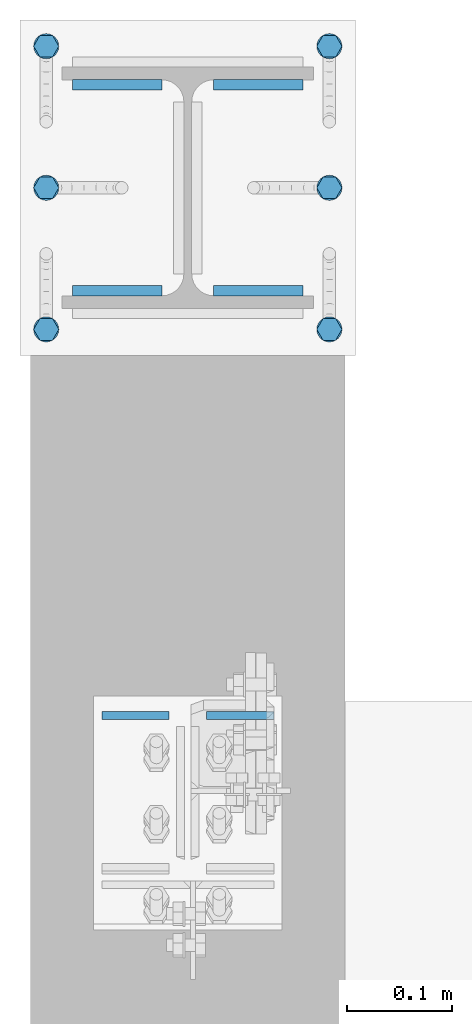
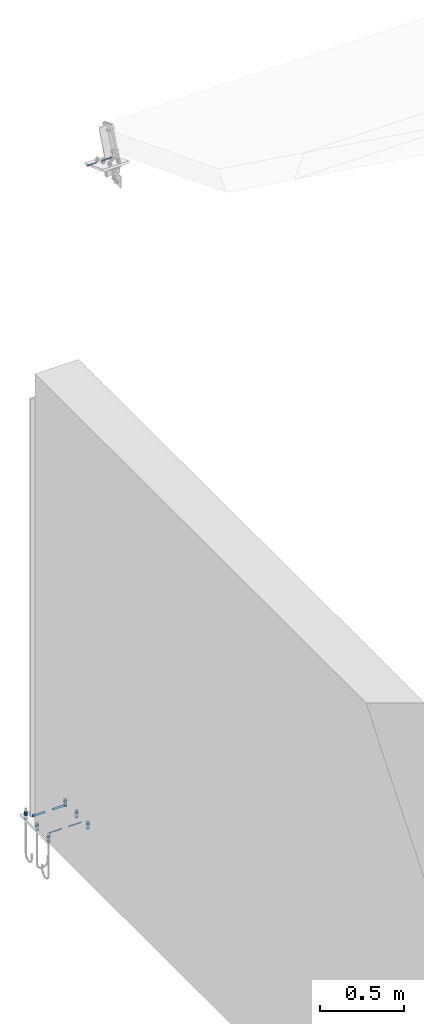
# One storey, part 42 of 72: 30 mechanical fasteners, 12 fasteners.
"""IFC4 building model written with IfcOpenShell, lengths in metres."""

import ifcopenshell
import ifcopenshell.guid

model = None  # the IFC model being written
_history = None  # IfcOwnerHistory: only IFC2X3 demands one
_inside = {}  # id of a spatial element -> (the spatial element, [elements in it])
_under = {}  # id of a project, library or spatial element -> (it, [spatial elements below it])
_declared = {}  # id of a project -> (the project, [libraries it declares])
_typed = {}  # id of a type object -> (the type object, [elements of that type])
_made_of = {}  # id of a material, layer set ... -> (it, [elements and type objects made of it])


def new_model(schema):
    """Start an empty IFC model of exactly this schema.

    Asked for "IFC4X3", IfcOpenShell would pick the latest addendum, in which some entities
    have other attributes; the version numbers below select the first issue.
    IFC2X3 requires an IfcOwnerHistory on every rooted entity: one is made here for all.
    """
    global model, _history
    if schema == "IFC4X3":
        model = ifcopenshell.file(schema_version=(4, 3, 0, 0))
    else:
        model = ifcopenshell.file(schema=schema)
    _inside.clear()
    _under.clear()
    _declared.clear()
    _typed.clear()
    _made_of.clear()
    _history = None
    if model.schema == "IFC2X3":
        org = make("IfcOrganization", Name="unknown")
        user = make(
            "IfcPersonAndOrganization",
            ThePerson=make("IfcPerson", FamilyName="unknown"),
            TheOrganization=org,
        )
        app = make(
            "IfcApplication",
            ApplicationDeveloper=org,
            Version="unknown",
            ApplicationFullName="unknown",
            ApplicationIdentifier="unknown",
        )
        _history = make(
            "IfcOwnerHistory",
            OwningUser=user,
            OwningApplication=app,
            ChangeAction="ADDED",
            CreationDate=0,
        )
    return model


def make(cls, **values):
    """One entity of the class cls with the attributes given. An attribute that is None is left unset."""
    return model.create_entity(
        cls, **{name: value for name, value in values.items() if value is not None}
    )


def rooted(cls, **values):
    """An entity with a GlobalId (a new one), such as an element, a storey or a relation."""
    return make(cls, GlobalId=ifcopenshell.guid.new(), OwnerHistory=_history, **values)


def si_unit(unit_type, name, prefix=None):
    """IfcSIUnit, for example si_unit("LENGTHUNIT", "METRE", prefix="MILLI")."""
    return make("IfcSIUnit", UnitType=unit_type, Prefix=prefix, Name=name)


def assignment(units):
    """IfcUnitAssignment: the units of a project."""
    return None if units is None else make("IfcUnitAssignment", Units=units)


def point(xyz):
    """IfcCartesianPoint."""
    return None if xyz is None else make("IfcCartesianPoint", Coordinates=xyz)


def direction(xyz):
    """IfcDirection."""
    return None if xyz is None else make("IfcDirection", DirectionRatios=xyz)


def frame(location, z_axis=None, x_axis=None):
    """IfcAxis2Placement3D, a coordinate frame: its origin and axes. An axis left out is left unset."""
    return make(
        "IfcAxis2Placement3D",
        Location=point(location),
        Axis=direction(z_axis),
        RefDirection=direction(x_axis),
    )


def origin_with_axes():
    """The frame at (0, 0, 0) with the z axis (0, 0, 1) and the x axis (1, 0, 0) written out."""
    return frame((0.0, 0.0, 0.0), z_axis=(0.0, 0.0, 1.0), x_axis=(1.0, 0.0, 0.0))


def place(relative_to, where):
    """IfcLocalPlacement: puts the frame where relative to a parent placement (None: the world)."""
    return make(
        "IfcLocalPlacement", PlacementRelTo=relative_to, RelativePlacement=where
    )


def context(
    kind, dimensions, precision=None, world=None, true_north=None, identifier=None
):
    """IfcGeometricRepresentationContext, for example the 3D "Model" context."""
    return make(
        "IfcGeometricRepresentationContext",
        ContextIdentifier=identifier,
        ContextType=kind,
        CoordinateSpaceDimension=dimensions,
        Precision=precision,
        WorldCoordinateSystem=world,
        TrueNorth=true_north,
    )


def project(units=None, contexts=None):
    """IfcProject with its units and contexts."""
    return rooted(
        "IfcProject",
        Name="project",
        RepresentationContexts=contexts,
        UnitsInContext=assignment(units),
    )


def spatial(cls, under=None, at=None, **own):
    """A site, building, storey or space (cls), placed at a placement, below another one or the project."""
    s = rooted(cls, ObjectPlacement=at, **own)
    if under is not None:
        _under.setdefault(under.id(), (under, []))[1].append(s)
    return s


def polyline(points):
    """IfcPolyline through the points."""
    return make("IfcPolyline", Points=[point(p) for p in points])


def outline(outer, holes=None, kind="AREA"):
    """IfcArbitraryClosedProfileDef: a profile drawn as a closed curve; with holes, ...WithVoids."""
    if holes is None:
        return make("IfcArbitraryClosedProfileDef", ProfileType=kind, OuterCurve=outer)
    return make(
        "IfcArbitraryProfileDefWithVoids",
        ProfileType=kind,
        OuterCurve=outer,
        InnerCurves=holes,
    )


def extrude(swept, where, along, depth):
    """IfcExtrudedAreaSolid: the profile swept, set in the frame where, extruded along a direction by depth."""
    return make(
        "IfcExtrudedAreaSolid",
        SweptArea=swept,
        Position=where,
        ExtrudedDirection=direction(along),
        Depth=depth,
    )


def shape(context_of_items, identifier, shape_type, items):
    """IfcShapeRepresentation: the items that make up one representation, for example the "Body"."""
    return make(
        "IfcShapeRepresentation",
        ContextOfItems=context_of_items,
        RepresentationIdentifier=identifier,
        RepresentationType=shape_type,
        Items=items,
    )


def made_of(thing, what):
    """Note that an element or type object is made of a material, layer set ...; save() writes the relation."""
    if what is not None:
        _made_of.setdefault(what.id(), (what, []))[1].append(thing)
    return thing


def type_object(cls, material=None, **own):
    """A type object (cls), such as IfcWallType, which elements share."""
    return made_of(rooted(cls, **own), material)


def element(
    cls,
    number,
    at=None,
    inside=None,
    cuts=None,
    type_object=None,
    material=None,
    context=None,
    identifier="Body",
    shape_type=None,
    held_by="IfcProductDefinitionShape",
    body=None,
    shapes=None,
    **own,
):
    """One element of the class cls, such as IfcWall. Its Tag is "e" and its number.

    at: its placement. inside: the storey or other place that contains it. cuts: it is an
    opening in that element (IfcRelVoidsElement). A single representation is given by context,
    identifier, shape_type and body (its items); several are given by shapes. held_by: the class
    of the entity that holds the representations. save() writes the other relations.
    """
    e = rooted(cls, Tag="e%d" % number, ObjectPlacement=at, **own)
    if body is not None:
        shapes = [shape(context, identifier, shape_type, body)]
    if shapes is not None:
        e.Representation = make(held_by, Representations=shapes)
    if inside is not None:
        _inside.setdefault(inside.id(), (inside, []))[1].append(e)
    if cuts is not None:
        rooted(
            "IfcRelVoidsElement", RelatingBuildingElement=cuts, RelatedOpeningElement=e
        )
    if type_object is not None:
        _typed.setdefault(type_object.id(), (type_object, []))[1].append(e)
    return made_of(e, material)


def aggregate(whole, parts):
    """IfcRelAggregates: a whole, such as a stair, and the parts it consists of."""
    return rooted("IfcRelAggregates", RelatingObject=whole, RelatedObjects=parts)


def save(model, path):
    """Write the relations noted so far, then the file.

    IfcRelAggregates (storeys below a building ...), IfcRelContainedInSpatialStructure (elements
    in a storey), IfcRelDefinesByType, IfcRelAssociatesMaterial and IfcRelDeclares: one each for
    every whole, place, type object, material and project.
    """
    for whole, parts in _under.values():
        aggregate(whole, parts)
    for where, things in _inside.values():
        rooted(
            "IfcRelContainedInSpatialStructure",
            RelatedElements=things,
            RelatingStructure=where,
        )
    for kind, things in _typed.values():
        rooted("IfcRelDefinesByType", RelatedObjects=things, RelatingType=kind)
    for what, things in _made_of.values():
        rooted("IfcRelAssociatesMaterial", RelatedObjects=things, RelatingMaterial=what)
    for by, libraries in _declared.values():
        rooted("IfcRelDeclares", RelatingContext=by, RelatedDefinitions=libraries)
    model.write(path)


model = new_model("IFC4")

# Units and contexts
model_context = context("Model", 3, precision=1e-05, world=origin_with_axes())
ifc_project = project(units=[si_unit("LENGTHUNIT", "METRE"), si_unit("AREAUNIT", "SQUARE_METRE"), si_unit("VOLUMEUNIT", "CUBIC_METRE"), si_unit("MASSUNIT", "GRAM", prefix="KILO"), si_unit("TIMEUNIT", "SECOND"), si_unit("PLANEANGLEUNIT", "RADIAN"), si_unit("SOLIDANGLEUNIT", "STERADIAN"), si_unit("THERMODYNAMICTEMPERATUREUNIT", "DEGREE_CELSIUS")], contexts=[model_context])

# Site, building, storey
placement_1 = place(None, origin_with_axes())
site = spatial("IfcSite", under=ifc_project, at=placement_1, Name="Italia", CompositionType="ELEMENT")
building = spatial("IfcBuilding", under=site, at=placement_1, Name="Uffici", CompositionType="ELEMENT")
storey = spatial("IfcBuildingStorey", under=building, at=placement_1, Name="Storey 0", CompositionType="ELEMENT", Elevation=0.0)

# Fasteners
fastener_type_1 = type_object("IfcFastenerType", Name="Collegamenti 0001_0101 0002_0102 0003_0103 0004_0104 0005_0105 0011_0111 0012_0112 0013_0113 0014_0114 0015_0115", PredefinedType="WELD")
placement_2 = place(placement_1, origin_with_axes())
fastener_1_placement = place(placement_2, origin_with_axes())
element("IfcFastener", 1, at=fastener_1_placement, inside=storey, type_object=fastener_type_1, Name="Collegamenti 0001_0101 0002_0102 0003_0103 0004_0104 0005_0105 0011_0111 0012_0112 0013_0113 0014_0114 0015_0115", context=model_context, shape_type="SweptSolid", body=[
    extrude(outline(polyline([(0.0, 0.0), (0.00986814, 0.0101734), (0.00986814, 0.0), (0.0, 0.0)])), frame((0.0247, 5.48318, 0.01995), z_axis=(1.0, 0.0, 0.0), x_axis=(0.0, 1.0, 0.0)), (0.0, 0.0, 1.0), 0.08535),
])
fastener_type_2 = type_object("IfcFastenerType", Name="Collegamenti 0001_0101 0002_0102 0003_0103 0004_0104 0005_0105 0011_0111 0012_0112 0013_0113 0014_0114 0015_0115", PredefinedType="WELD")
fastener_2_placement = place(placement_2, origin_with_axes())
element("IfcFastener", 2, at=fastener_2_placement, inside=storey, type_object=fastener_type_2, Name="Collegamenti 0001_0101 0002_0102 0003_0103 0004_0104 0005_0105 0011_0111 0012_0112 0013_0113 0014_0114 0015_0115", context=model_context, shape_type="SweptSolid", body=[
    extrude(outline(polyline([(0.0, 0.0), (0.00986814, 0.0101734), (0.00986814, 0.0), (0.0, 0.0)])), frame((0.11005, 5.29682, 0.01995), z_axis=(-1.0, 0.0, 0.0), x_axis=(0.0, -1.0, 0.0)), (0.0, 0.0, 1.0), 0.08535),
])
fastener_type_3 = type_object("IfcFastenerType", Name="Collegamenti 0001_0101 0002_0102 0003_0103 0004_0104 0005_0105 0011_0111 0012_0112 0013_0113 0014_0114 0015_0115", PredefinedType="WELD")
fastener_3_placement = place(placement_2, origin_with_axes())
element("IfcFastener", 3, at=fastener_3_placement, inside=storey, type_object=fastener_type_3, Name="Collegamenti 0001_0101 0002_0102 0003_0103 0004_0104 0005_0105 0011_0111 0012_0112 0013_0113 0014_0114 0015_0115", context=model_context, shape_type="SweptSolid", body=[
    extrude(outline(polyline([(0.0, 0.0), (0.00986814, 0.0101734), (0.00986814, 0.0), (0.0, 0.0)])), frame((-0.0247, 5.29682, 0.01995), z_axis=(-1.0, 0.0, 0.0), x_axis=(0.0, -1.0, 0.0)), (0.0, 0.0, 1.0), 0.08535),
])
fastener_type_4 = type_object("IfcFastenerType", Name="Collegamenti 0001_0101 0002_0102 0003_0103 0004_0104 0005_0105 0011_0111 0012_0112 0013_0113 0014_0114 0015_0115", PredefinedType="WELD")
fastener_4_placement = place(placement_2, origin_with_axes())
element("IfcFastener", 4, at=fastener_4_placement, inside=storey, type_object=fastener_type_4, Name="Collegamenti 0001_0101 0002_0102 0003_0103 0004_0104 0005_0105 0011_0111 0012_0112 0013_0113 0014_0114 0015_0115", context=model_context, shape_type="SweptSolid", body=[
    extrude(outline(polyline([(0.0, 0.0), (0.00986814, 0.0101734), (0.00986814, 0.0), (0.0, 0.0)])), frame((-0.11005, 5.48318, 0.01995), z_axis=(1.0, 0.0, 0.0), x_axis=(0.0, 1.0, 0.0)), (0.0, 0.0, 1.0), 0.08535),
])
fastener_type_5 = type_object("IfcFastenerType", Name="Collegamenti 0001_0101 0002_0102 0003_0103 0004_0104 0005_0105 0011_0111 0012_0112 0013_0113 0014_0114 0015_0115", PredefinedType="WELD")
fastener_5_placement = place(placement_2, origin_with_axes())
element("IfcFastener", 5, at=fastener_5_placement, inside=storey, type_object=fastener_type_5, Name="Collegamenti 0001_0101 0002_0102 0003_0103 0004_0104 0005_0105 0011_0111 0012_0112 0013_0113 0014_0114 0015_0115", context=model_context, shape_type="SweptSolid", body=[
    extrude(outline(polyline([(0.0, 0.0), (0.00986814, 0.0101734), (0.00986814, 0.0), (0.0, 0.0)])), frame((0.0247, 5.48318, 0.01995), z_axis=(1.0, 0.0, 0.0), x_axis=(0.0, 1.0, 0.0)), (0.0, 0.0, 1.0), 0.08535),
])
fastener_type_6 = type_object("IfcFastenerType", Name="Collegamenti 0001_0101 0002_0102 0003_0103 0004_0104 0005_0105 0011_0111 0012_0112 0013_0113 0014_0114 0015_0115", PredefinedType="WELD")
fastener_6_placement = place(placement_2, origin_with_axes())
element("IfcFastener", 6, at=fastener_6_placement, inside=storey, type_object=fastener_type_6, Name="Collegamenti 0001_0101 0002_0102 0003_0103 0004_0104 0005_0105 0011_0111 0012_0112 0013_0113 0014_0114 0015_0115", context=model_context, shape_type="SweptSolid", body=[
    extrude(outline(polyline([(0.0, 0.0), (0.00986814, 0.0101734), (0.00986814, 0.0), (0.0, 0.0)])), frame((0.11005, 5.29682, 0.01995), z_axis=(-1.0, 0.0, 0.0), x_axis=(0.0, -1.0, 0.0)), (0.0, 0.0, 1.0), 0.08535),
])
fastener_type_7 = type_object("IfcFastenerType", Name="Collegamenti 0001_0101 0002_0102 0003_0103 0004_0104 0005_0105 0011_0111 0012_0112 0013_0113 0014_0114 0015_0115", PredefinedType="WELD")
fastener_7_placement = place(placement_2, origin_with_axes())
element("IfcFastener", 7, at=fastener_7_placement, inside=storey, type_object=fastener_type_7, Name="Collegamenti 0001_0101 0002_0102 0003_0103 0004_0104 0005_0105 0011_0111 0012_0112 0013_0113 0014_0114 0015_0115", context=model_context, shape_type="SweptSolid", body=[
    extrude(outline(polyline([(0.0, 0.0), (0.00986814, 0.0101734), (0.00986814, 0.0), (0.0, 0.0)])), frame((-0.0247, 5.29682, 0.01995), z_axis=(-1.0, 0.0, 0.0), x_axis=(0.0, -1.0, 0.0)), (0.0, 0.0, 1.0), 0.08535),
])
fastener_type_8 = type_object("IfcFastenerType", Name="Collegamenti 0001_0101 0002_0102 0003_0103 0004_0104 0005_0105 0011_0111 0012_0112 0013_0113 0014_0114 0015_0115", PredefinedType="WELD")
fastener_8_placement = place(placement_2, origin_with_axes())
element("IfcFastener", 8, at=fastener_8_placement, inside=storey, type_object=fastener_type_8, Name="Collegamenti 0001_0101 0002_0102 0003_0103 0004_0104 0005_0105 0011_0111 0012_0112 0013_0113 0014_0114 0015_0115", context=model_context, shape_type="SweptSolid", body=[
    extrude(outline(polyline([(0.0, 0.0), (0.00986814, 0.0101734), (0.00986814, 0.0), (0.0, 0.0)])), frame((-0.11005, 5.48318, 0.01995), z_axis=(1.0, 0.0, 0.0), x_axis=(0.0, 1.0, 0.0)), (0.0, 0.0, 1.0), 0.08535),
])

# Mechanical fasteners
mechanical_fastener_type_1 = type_object("IfcMechanicalFastenerType", Name="Collegamenti 0001_0101 0002_0102 0003_0103 0004_0104 0005_0105 0011_0111 0012_0112 0013_0113 0014_0114 0015_0115", PredefinedType="BOLT")
mechanical_fastener_1_placement = place(placement_2, origin_with_axes())
element("IfcMechanicalFastener", 9, at=mechanical_fastener_1_placement, inside=storey, type_object=mechanical_fastener_type_1, Name="Collegamenti 0001_0101 0002_0102 0003_0103 0004_0104 0005_0105 0011_0111 0012_0112 0013_0113 0014_0114 0015_0115", NominalDiameter=0.0119999, context=model_context, shape_type="SweptSolid", body=[
    extrude(outline(polyline([(0.0, 0.0), (0.0, 0.012), (0.0103922, 0.018), (0.0207849, 0.012), (0.0207849, 0.0), (0.0103922, -0.006), (0.0, 0.0)])), frame((-0.129, 5.24461, 0.022), z_axis=(0.0, 0.0, 1.0), x_axis=(0.0, 1.0, 0.0)), (0.0, 0.0, 1.0), 0.0096),
])
mechanical_fastener_type_2 = type_object("IfcMechanicalFastenerType", Name="Collegamenti 0001_0101 0002_0102 0003_0103 0004_0104 0005_0105 0011_0111 0012_0112 0013_0113 0014_0114 0015_0115", PredefinedType="BOLT")
mechanical_fastener_2_placement = place(placement_2, origin_with_axes())
element("IfcMechanicalFastener", 10, at=mechanical_fastener_2_placement, inside=storey, type_object=mechanical_fastener_type_2, Name="Collegamenti 0001_0101 0002_0102 0003_0103 0004_0104 0005_0105 0011_0111 0012_0112 0013_0113 0014_0114 0015_0115", NominalDiameter=0.0119999, context=model_context, shape_type="SweptSolid", body=[
    extrude(outline(polyline([(0.0, 0.0), (0.0, 0.012), (0.0103922, 0.018), (0.0207849, 0.012), (0.0207849, 0.0), (0.0103922, -0.006), (0.0, 0.0)])), frame((-0.129, 5.24461, 0.0316), z_axis=(0.0, 0.0, 1.0), x_axis=(0.0, 1.0, 0.0)), (0.0, 0.0, 1.0), 0.0096),
])
mechanical_fastener_type_3 = type_object("IfcMechanicalFastenerType", Name="Collegamenti 0001_0101 0002_0102 0003_0103 0004_0104 0005_0105 0011_0111 0012_0112 0013_0113 0014_0114 0015_0115", PredefinedType="BOLT")
mechanical_fastener_3_placement = place(placement_2, origin_with_axes())
element("IfcMechanicalFastener", 11, at=mechanical_fastener_3_placement, inside=storey, type_object=mechanical_fastener_type_3, Name="Collegamenti 0001_0101 0002_0102 0003_0103 0004_0104 0005_0105 0011_0111 0012_0112 0013_0113 0014_0114 0015_0115", NominalDiameter=0.0119999, context=model_context, shape_type="SweptSolid", body=[
    extrude(outline(polyline([(0.0, 0.0), (0.0, 0.012), (0.0103922, 0.018), (0.0207849, 0.012), (0.0207849, 0.0), (0.0103922, -0.006), (0.0, 0.0)])), frame((-0.129, 5.24461, -0.0116), z_axis=(0.0, 0.0, 1.0), x_axis=(0.0, 1.0, 0.0)), (0.0, 0.0, 1.0), 0.0096),
])
mechanical_fastener_type_4 = type_object("IfcMechanicalFastenerType", Name="Collegamenti 0001_0101 0002_0102 0003_0103 0004_0104 0005_0105 0011_0111 0012_0112 0013_0113 0014_0114 0015_0115", PredefinedType="BOLT")
mechanical_fastener_4_placement = place(placement_2, origin_with_axes())
element("IfcMechanicalFastener", 12, at=mechanical_fastener_4_placement, inside=storey, type_object=mechanical_fastener_type_4, Name="Collegamenti 0001_0101 0002_0102 0003_0103 0004_0104 0005_0105 0011_0111 0012_0112 0013_0113 0014_0114 0015_0115", NominalDiameter=0.024, context=model_context, shape_type="SweptSolid", body=[
    extrude(outline(polyline([(0.0, 0.0), (-0.000409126, -0.00310583), (-0.00160789, -0.006), (-0.00351477, -0.00848529), (-0.00600004, -0.0103923), (-0.00889444, -0.0115911), (-0.0120001, -0.012), (-0.0151057, -0.0115911), (-0.0180001, -0.0103923), (-0.0204854, -0.00848529), (-0.0223923, -0.006), (-0.023591, -0.00310583), (-0.0240002, 0.0), (-0.023591, 0.00310583), (-0.0223923, 0.006), (-0.0204854, 0.00848529), (-0.0180001, 0.0103923), (-0.0151057, 0.0115911), (-0.0120001, 0.012), (-0.00889444, 0.0115911), (-0.00600004, 0.0103923), (-0.00351477, 0.00848527), (-0.00160789, 0.006), (-0.000409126, 0.00310582), (0.0, 0.0)])), frame((-0.135, 5.267, 0.02), z_axis=(0.0, 0.0, 1.0), x_axis=(0.0, 1.0, 0.0)), (0.0, 0.0, 1.0), 0.002),
])
mechanical_fastener_type_5 = type_object("IfcMechanicalFastenerType", Name="Collegamenti 0001_0101 0002_0102 0003_0103 0004_0104 0005_0105 0011_0111 0012_0112 0013_0113 0014_0114 0015_0115", PredefinedType="BOLT")
mechanical_fastener_5_placement = place(placement_2, origin_with_axes())
element("IfcMechanicalFastener", 13, at=mechanical_fastener_5_placement, inside=storey, type_object=mechanical_fastener_type_5, Name="Collegamenti 0001_0101 0002_0102 0003_0103 0004_0104 0005_0105 0011_0111 0012_0112 0013_0113 0014_0114 0015_0115", NominalDiameter=0.024, context=model_context, shape_type="SweptSolid", body=[
    extrude(outline(polyline([(0.0, 0.0), (-0.000409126, -0.00310583), (-0.00160789, -0.006), (-0.00351477, -0.00848529), (-0.00600004, -0.0103923), (-0.00889444, -0.0115911), (-0.0120001, -0.012), (-0.0151057, -0.0115911), (-0.0180001, -0.0103923), (-0.0204854, -0.00848529), (-0.0223923, -0.006), (-0.023591, -0.00310583), (-0.0240002, 0.0), (-0.023591, 0.00310583), (-0.0223923, 0.006), (-0.0204854, 0.00848529), (-0.0180001, 0.0103923), (-0.0151057, 0.0115911), (-0.0120001, 0.012), (-0.00889444, 0.0115911), (-0.00600004, 0.0103923), (-0.00351477, 0.00848527), (-0.00160789, 0.006), (-0.000409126, 0.00310582), (0.0, 0.0)])), frame((-0.135, 5.267, -0.002), z_axis=(0.0, 0.0, 1.0), x_axis=(0.0, 1.0, 0.0)), (0.0, 0.0, 1.0), 0.002),
])
mechanical_fastener_type_6 = type_object("IfcMechanicalFastenerType", Name="Collegamenti 0001_0101 0002_0102 0003_0103 0004_0104 0005_0105 0011_0111 0012_0112 0013_0113 0014_0114 0015_0115", PredefinedType="BOLT")
mechanical_fastener_6_placement = place(placement_2, origin_with_axes())
element("IfcMechanicalFastener", 14, at=mechanical_fastener_6_placement, inside=storey, type_object=mechanical_fastener_type_6, Name="Collegamenti 0001_0101 0002_0102 0003_0103 0004_0104 0005_0105 0011_0111 0012_0112 0013_0113 0014_0114 0015_0115", NominalDiameter=0.0119999, context=model_context, shape_type="SweptSolid", body=[
    extrude(outline(polyline([(0.0, 0.0), (0.0, 0.012), (0.0103922, 0.018), (0.0207849, 0.012), (0.0207849, 0.0), (0.0103922, -0.006), (0.0, 0.0)])), frame((0.141, 5.24461, 0.022), z_axis=(0.0, 0.0, 1.0), x_axis=(0.0, 1.0, 0.0)), (0.0, 0.0, 1.0), 0.0096),
])
mechanical_fastener_type_7 = type_object("IfcMechanicalFastenerType", Name="Collegamenti 0001_0101 0002_0102 0003_0103 0004_0104 0005_0105 0011_0111 0012_0112 0013_0113 0014_0114 0015_0115", PredefinedType="BOLT")
mechanical_fastener_7_placement = place(placement_2, origin_with_axes())
element("IfcMechanicalFastener", 15, at=mechanical_fastener_7_placement, inside=storey, type_object=mechanical_fastener_type_7, Name="Collegamenti 0001_0101 0002_0102 0003_0103 0004_0104 0005_0105 0011_0111 0012_0112 0013_0113 0014_0114 0015_0115", NominalDiameter=0.0119999, context=model_context, shape_type="SweptSolid", body=[
    extrude(outline(polyline([(0.0, 0.0), (0.0, 0.012), (0.0103922, 0.018), (0.0207849, 0.012), (0.0207849, 0.0), (0.0103922, -0.006), (0.0, 0.0)])), frame((0.141, 5.24461, 0.0316), z_axis=(0.0, 0.0, 1.0), x_axis=(0.0, 1.0, 0.0)), (0.0, 0.0, 1.0), 0.0096),
])
mechanical_fastener_type_8 = type_object("IfcMechanicalFastenerType", Name="Collegamenti 0001_0101 0002_0102 0003_0103 0004_0104 0005_0105 0011_0111 0012_0112 0013_0113 0014_0114 0015_0115", PredefinedType="BOLT")
mechanical_fastener_8_placement = place(placement_2, origin_with_axes())
element("IfcMechanicalFastener", 16, at=mechanical_fastener_8_placement, inside=storey, type_object=mechanical_fastener_type_8, Name="Collegamenti 0001_0101 0002_0102 0003_0103 0004_0104 0005_0105 0011_0111 0012_0112 0013_0113 0014_0114 0015_0115", NominalDiameter=0.0119999, context=model_context, shape_type="SweptSolid", body=[
    extrude(outline(polyline([(0.0, 0.0), (0.0, 0.012), (0.0103922, 0.018), (0.0207849, 0.012), (0.0207849, 0.0), (0.0103922, -0.006), (0.0, 0.0)])), frame((0.141, 5.24461, -0.0116), z_axis=(0.0, 0.0, 1.0), x_axis=(0.0, 1.0, 0.0)), (0.0, 0.0, 1.0), 0.0096),
])
mechanical_fastener_type_9 = type_object("IfcMechanicalFastenerType", Name="Collegamenti 0001_0101 0002_0102 0003_0103 0004_0104 0005_0105 0011_0111 0012_0112 0013_0113 0014_0114 0015_0115", PredefinedType="BOLT")
mechanical_fastener_9_placement = place(placement_2, origin_with_axes())
element("IfcMechanicalFastener", 17, at=mechanical_fastener_9_placement, inside=storey, type_object=mechanical_fastener_type_9, Name="Collegamenti 0001_0101 0002_0102 0003_0103 0004_0104 0005_0105 0011_0111 0012_0112 0013_0113 0014_0114 0015_0115", NominalDiameter=0.024, context=model_context, shape_type="SweptSolid", body=[
    extrude(outline(polyline([(0.0, 0.0), (-0.000409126, -0.00310583), (-0.00160789, -0.006), (-0.00351477, -0.00848529), (-0.00600004, -0.0103923), (-0.00889444, -0.0115911), (-0.0120001, -0.012), (-0.0151057, -0.0115911), (-0.0180001, -0.0103923), (-0.0204854, -0.00848529), (-0.0223923, -0.006), (-0.023591, -0.00310583), (-0.0240002, 0.0), (-0.023591, 0.00310583), (-0.0223923, 0.006), (-0.0204854, 0.00848529), (-0.0180001, 0.0103923), (-0.0151057, 0.0115911), (-0.0120001, 0.012), (-0.00889444, 0.0115911), (-0.00600004, 0.0103923), (-0.00351477, 0.00848527), (-0.00160789, 0.006), (-0.000409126, 0.00310582), (0.0, 0.0)])), frame((0.135, 5.267, 0.02), z_axis=(0.0, 0.0, 1.0), x_axis=(0.0, 1.0, 0.0)), (0.0, 0.0, 1.0), 0.002),
])
mechanical_fastener_type_10 = type_object("IfcMechanicalFastenerType", Name="Collegamenti 0001_0101 0002_0102 0003_0103 0004_0104 0005_0105 0011_0111 0012_0112 0013_0113 0014_0114 0015_0115", PredefinedType="BOLT")
mechanical_fastener_10_placement = place(placement_2, origin_with_axes())
element("IfcMechanicalFastener", 18, at=mechanical_fastener_10_placement, inside=storey, type_object=mechanical_fastener_type_10, Name="Collegamenti 0001_0101 0002_0102 0003_0103 0004_0104 0005_0105 0011_0111 0012_0112 0013_0113 0014_0114 0015_0115", NominalDiameter=0.024, context=model_context, shape_type="SweptSolid", body=[
    extrude(outline(polyline([(0.0, 0.0), (-0.000409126, -0.00310583), (-0.00160789, -0.006), (-0.00351477, -0.00848529), (-0.00600004, -0.0103923), (-0.00889444, -0.0115911), (-0.0120001, -0.012), (-0.0151057, -0.0115911), (-0.0180001, -0.0103923), (-0.0204854, -0.00848529), (-0.0223923, -0.006), (-0.023591, -0.00310583), (-0.0240002, 0.0), (-0.023591, 0.00310583), (-0.0223923, 0.006), (-0.0204854, 0.00848529), (-0.0180001, 0.0103923), (-0.0151057, 0.0115911), (-0.0120001, 0.012), (-0.00889444, 0.0115911), (-0.00600004, 0.0103923), (-0.00351477, 0.00848527), (-0.00160789, 0.006), (-0.000409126, 0.00310582), (0.0, 0.0)])), frame((0.135, 5.267, -0.002), z_axis=(0.0, 0.0, 1.0), x_axis=(0.0, 1.0, 0.0)), (0.0, 0.0, 1.0), 0.002),
])
mechanical_fastener_type_11 = type_object("IfcMechanicalFastenerType", Name="Collegamenti 0001_0101 0002_0102 0003_0103 0004_0104 0005_0105 0011_0111 0012_0112 0013_0113 0014_0114 0015_0115", PredefinedType="BOLT")
mechanical_fastener_11_placement = place(placement_2, origin_with_axes())
element("IfcMechanicalFastener", 19, at=mechanical_fastener_11_placement, inside=storey, type_object=mechanical_fastener_type_11, Name="Collegamenti 0001_0101 0002_0102 0003_0103 0004_0104 0005_0105 0011_0111 0012_0112 0013_0113 0014_0114 0015_0115", NominalDiameter=0.0119999, context=model_context, shape_type="SweptSolid", body=[
    extrude(outline(polyline([(0.0, 0.0), (0.0, 0.012), (0.0103922, 0.018), (0.0207844, 0.012), (0.0207844, 0.0), (0.0103922, -0.006), (0.0, 0.0)])), frame((-0.129, 5.37961, 0.022), z_axis=(0.0, 0.0, 1.0), x_axis=(0.0, 1.0, 0.0)), (0.0, 0.0, 1.0), 0.0096),
])
mechanical_fastener_type_12 = type_object("IfcMechanicalFastenerType", Name="Collegamenti 0001_0101 0002_0102 0003_0103 0004_0104 0005_0105 0011_0111 0012_0112 0013_0113 0014_0114 0015_0115", PredefinedType="BOLT")
mechanical_fastener_12_placement = place(placement_2, origin_with_axes())
element("IfcMechanicalFastener", 20, at=mechanical_fastener_12_placement, inside=storey, type_object=mechanical_fastener_type_12, Name="Collegamenti 0001_0101 0002_0102 0003_0103 0004_0104 0005_0105 0011_0111 0012_0112 0013_0113 0014_0114 0015_0115", NominalDiameter=0.0119999, context=model_context, shape_type="SweptSolid", body=[
    extrude(outline(polyline([(0.0, 0.0), (0.0, 0.012), (0.0103922, 0.018), (0.0207844, 0.012), (0.0207844, 0.0), (0.0103922, -0.006), (0.0, 0.0)])), frame((-0.129, 5.37961, 0.0316), z_axis=(0.0, 0.0, 1.0), x_axis=(0.0, 1.0, 0.0)), (0.0, 0.0, 1.0), 0.0096),
])
mechanical_fastener_type_13 = type_object("IfcMechanicalFastenerType", Name="Collegamenti 0001_0101 0002_0102 0003_0103 0004_0104 0005_0105 0011_0111 0012_0112 0013_0113 0014_0114 0015_0115", PredefinedType="BOLT")
mechanical_fastener_13_placement = place(placement_2, origin_with_axes())
element("IfcMechanicalFastener", 21, at=mechanical_fastener_13_placement, inside=storey, type_object=mechanical_fastener_type_13, Name="Collegamenti 0001_0101 0002_0102 0003_0103 0004_0104 0005_0105 0011_0111 0012_0112 0013_0113 0014_0114 0015_0115", NominalDiameter=0.0119999, context=model_context, shape_type="SweptSolid", body=[
    extrude(outline(polyline([(0.0, 0.0), (0.0, 0.012), (0.0103922, 0.018), (0.0207844, 0.012), (0.0207844, 0.0), (0.0103922, -0.006), (0.0, 0.0)])), frame((-0.129, 5.37961, -0.0116), z_axis=(0.0, 0.0, 1.0), x_axis=(0.0, 1.0, 0.0)), (0.0, 0.0, 1.0), 0.0096),
])
mechanical_fastener_type_14 = type_object("IfcMechanicalFastenerType", Name="Collegamenti 0001_0101 0002_0102 0003_0103 0004_0104 0005_0105 0011_0111 0012_0112 0013_0113 0014_0114 0015_0115", PredefinedType="BOLT")
mechanical_fastener_14_placement = place(placement_2, origin_with_axes())
element("IfcMechanicalFastener", 22, at=mechanical_fastener_14_placement, inside=storey, type_object=mechanical_fastener_type_14, Name="Collegamenti 0001_0101 0002_0102 0003_0103 0004_0104 0005_0105 0011_0111 0012_0112 0013_0113 0014_0114 0015_0115", NominalDiameter=0.024, context=model_context, shape_type="SweptSolid", body=[
    extrude(outline(polyline([(0.0, 0.0), (-0.000409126, -0.00310583), (-0.00160789, -0.006), (-0.00351477, -0.00848529), (-0.00600004, -0.0103923), (-0.00889444, -0.0115911), (-0.0120001, -0.012), (-0.0151057, -0.0115911), (-0.0180001, -0.0103923), (-0.0204854, -0.00848529), (-0.0223923, -0.006), (-0.023591, -0.00310583), (-0.0240002, 0.0), (-0.023591, 0.00310583), (-0.0223923, 0.006), (-0.0204854, 0.00848529), (-0.0180001, 0.0103923), (-0.0151057, 0.0115911), (-0.0120001, 0.012), (-0.00889444, 0.0115911), (-0.00600004, 0.0103923), (-0.00351477, 0.00848527), (-0.00160789, 0.006), (-0.000409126, 0.00310582), (0.0, 0.0)])), frame((-0.135, 5.402, 0.02), z_axis=(0.0, 0.0, 1.0), x_axis=(0.0, 1.0, 0.0)), (0.0, 0.0, 1.0), 0.002),
])
mechanical_fastener_type_15 = type_object("IfcMechanicalFastenerType", Name="Collegamenti 0001_0101 0002_0102 0003_0103 0004_0104 0005_0105 0011_0111 0012_0112 0013_0113 0014_0114 0015_0115", PredefinedType="BOLT")
mechanical_fastener_15_placement = place(placement_2, origin_with_axes())
element("IfcMechanicalFastener", 23, at=mechanical_fastener_15_placement, inside=storey, type_object=mechanical_fastener_type_15, Name="Collegamenti 0001_0101 0002_0102 0003_0103 0004_0104 0005_0105 0011_0111 0012_0112 0013_0113 0014_0114 0015_0115", NominalDiameter=0.024, context=model_context, shape_type="SweptSolid", body=[
    extrude(outline(polyline([(0.0, 0.0), (-0.000409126, -0.00310583), (-0.00160789, -0.006), (-0.00351477, -0.00848529), (-0.00600004, -0.0103923), (-0.00889444, -0.0115911), (-0.0120001, -0.012), (-0.0151057, -0.0115911), (-0.0180001, -0.0103923), (-0.0204854, -0.00848529), (-0.0223923, -0.006), (-0.023591, -0.00310583), (-0.0240002, 0.0), (-0.023591, 0.00310583), (-0.0223923, 0.006), (-0.0204854, 0.00848529), (-0.0180001, 0.0103923), (-0.0151057, 0.0115911), (-0.0120001, 0.012), (-0.00889444, 0.0115911), (-0.00600004, 0.0103923), (-0.00351477, 0.00848527), (-0.00160789, 0.006), (-0.000409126, 0.00310582), (0.0, 0.0)])), frame((-0.135, 5.402, -0.002), z_axis=(0.0, 0.0, 1.0), x_axis=(0.0, 1.0, 0.0)), (0.0, 0.0, 1.0), 0.002),
])
mechanical_fastener_type_16 = type_object("IfcMechanicalFastenerType", Name="Collegamenti 0001_0101 0002_0102 0003_0103 0004_0104 0005_0105 0011_0111 0012_0112 0013_0113 0014_0114 0015_0115", PredefinedType="BOLT")
mechanical_fastener_16_placement = place(placement_2, origin_with_axes())
element("IfcMechanicalFastener", 24, at=mechanical_fastener_16_placement, inside=storey, type_object=mechanical_fastener_type_16, Name="Collegamenti 0001_0101 0002_0102 0003_0103 0004_0104 0005_0105 0011_0111 0012_0112 0013_0113 0014_0114 0015_0115", NominalDiameter=0.0119999, context=model_context, shape_type="SweptSolid", body=[
    extrude(outline(polyline([(0.0, 0.0), (0.0, 0.012), (0.0103922, 0.018), (0.0207844, 0.012), (0.0207844, 0.0), (0.0103922, -0.006), (0.0, 0.0)])), frame((0.141, 5.37961, 0.022), z_axis=(0.0, 0.0, 1.0), x_axis=(0.0, 1.0, 0.0)), (0.0, 0.0, 1.0), 0.0096),
])
mechanical_fastener_type_17 = type_object("IfcMechanicalFastenerType", Name="Collegamenti 0001_0101 0002_0102 0003_0103 0004_0104 0005_0105 0011_0111 0012_0112 0013_0113 0014_0114 0015_0115", PredefinedType="BOLT")
mechanical_fastener_17_placement = place(placement_2, origin_with_axes())
element("IfcMechanicalFastener", 25, at=mechanical_fastener_17_placement, inside=storey, type_object=mechanical_fastener_type_17, Name="Collegamenti 0001_0101 0002_0102 0003_0103 0004_0104 0005_0105 0011_0111 0012_0112 0013_0113 0014_0114 0015_0115", NominalDiameter=0.0119999, context=model_context, shape_type="SweptSolid", body=[
    extrude(outline(polyline([(0.0, 0.0), (0.0, 0.012), (0.0103922, 0.018), (0.0207844, 0.012), (0.0207844, 0.0), (0.0103922, -0.006), (0.0, 0.0)])), frame((0.141, 5.37961, 0.0316), z_axis=(0.0, 0.0, 1.0), x_axis=(0.0, 1.0, 0.0)), (0.0, 0.0, 1.0), 0.0096),
])
mechanical_fastener_type_18 = type_object("IfcMechanicalFastenerType", Name="Collegamenti 0001_0101 0002_0102 0003_0103 0004_0104 0005_0105 0011_0111 0012_0112 0013_0113 0014_0114 0015_0115", PredefinedType="BOLT")
mechanical_fastener_18_placement = place(placement_2, origin_with_axes())
element("IfcMechanicalFastener", 26, at=mechanical_fastener_18_placement, inside=storey, type_object=mechanical_fastener_type_18, Name="Collegamenti 0001_0101 0002_0102 0003_0103 0004_0104 0005_0105 0011_0111 0012_0112 0013_0113 0014_0114 0015_0115", NominalDiameter=0.0119999, context=model_context, shape_type="SweptSolid", body=[
    extrude(outline(polyline([(0.0, 0.0), (0.0, 0.012), (0.0103922, 0.018), (0.0207844, 0.012), (0.0207844, 0.0), (0.0103922, -0.006), (0.0, 0.0)])), frame((0.141, 5.37961, -0.0116), z_axis=(0.0, 0.0, 1.0), x_axis=(0.0, 1.0, 0.0)), (0.0, 0.0, 1.0), 0.0096),
])
mechanical_fastener_type_19 = type_object("IfcMechanicalFastenerType", Name="Collegamenti 0001_0101 0002_0102 0003_0103 0004_0104 0005_0105 0011_0111 0012_0112 0013_0113 0014_0114 0015_0115", PredefinedType="BOLT")
mechanical_fastener_19_placement = place(placement_2, origin_with_axes())
element("IfcMechanicalFastener", 27, at=mechanical_fastener_19_placement, inside=storey, type_object=mechanical_fastener_type_19, Name="Collegamenti 0001_0101 0002_0102 0003_0103 0004_0104 0005_0105 0011_0111 0012_0112 0013_0113 0014_0114 0015_0115", NominalDiameter=0.024, context=model_context, shape_type="SweptSolid", body=[
    extrude(outline(polyline([(0.0, 0.0), (-0.000409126, -0.00310583), (-0.00160789, -0.006), (-0.00351477, -0.00848529), (-0.00600004, -0.0103923), (-0.00889444, -0.0115911), (-0.0120001, -0.012), (-0.0151057, -0.0115911), (-0.0180001, -0.0103923), (-0.0204854, -0.00848529), (-0.0223923, -0.006), (-0.023591, -0.00310583), (-0.0240002, 0.0), (-0.023591, 0.00310583), (-0.0223923, 0.006), (-0.0204854, 0.00848529), (-0.0180001, 0.0103923), (-0.0151057, 0.0115911), (-0.0120001, 0.012), (-0.00889444, 0.0115911), (-0.00600004, 0.0103923), (-0.00351477, 0.00848527), (-0.00160789, 0.006), (-0.000409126, 0.00310582), (0.0, 0.0)])), frame((0.135, 5.402, 0.02), z_axis=(0.0, 0.0, 1.0), x_axis=(0.0, 1.0, 0.0)), (0.0, 0.0, 1.0), 0.002),
])
mechanical_fastener_type_20 = type_object("IfcMechanicalFastenerType", Name="Collegamenti 0001_0101 0002_0102 0003_0103 0004_0104 0005_0105 0011_0111 0012_0112 0013_0113 0014_0114 0015_0115", PredefinedType="BOLT")
mechanical_fastener_20_placement = place(placement_2, origin_with_axes())
element("IfcMechanicalFastener", 28, at=mechanical_fastener_20_placement, inside=storey, type_object=mechanical_fastener_type_20, Name="Collegamenti 0001_0101 0002_0102 0003_0103 0004_0104 0005_0105 0011_0111 0012_0112 0013_0113 0014_0114 0015_0115", NominalDiameter=0.024, context=model_context, shape_type="SweptSolid", body=[
    extrude(outline(polyline([(0.0, 0.0), (-0.000409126, -0.00310583), (-0.00160789, -0.006), (-0.00351477, -0.00848529), (-0.00600004, -0.0103923), (-0.00889444, -0.0115911), (-0.0120001, -0.012), (-0.0151057, -0.0115911), (-0.0180001, -0.0103923), (-0.0204854, -0.00848529), (-0.0223923, -0.006), (-0.023591, -0.00310583), (-0.0240002, 0.0), (-0.023591, 0.00310583), (-0.0223923, 0.006), (-0.0204854, 0.00848529), (-0.0180001, 0.0103923), (-0.0151057, 0.0115911), (-0.0120001, 0.012), (-0.00889444, 0.0115911), (-0.00600004, 0.0103923), (-0.00351477, 0.00848527), (-0.00160789, 0.006), (-0.000409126, 0.00310582), (0.0, 0.0)])), frame((0.135, 5.402, -0.002), z_axis=(0.0, 0.0, 1.0), x_axis=(0.0, 1.0, 0.0)), (0.0, 0.0, 1.0), 0.002),
])
mechanical_fastener_type_21 = type_object("IfcMechanicalFastenerType", Name="Collegamenti 0001_0101 0002_0102 0003_0103 0004_0104 0005_0105 0011_0111 0012_0112 0013_0113 0014_0114 0015_0115", PredefinedType="BOLT")
mechanical_fastener_21_placement = place(placement_2, origin_with_axes())
element("IfcMechanicalFastener", 29, at=mechanical_fastener_21_placement, inside=storey, type_object=mechanical_fastener_type_21, Name="Collegamenti 0001_0101 0002_0102 0003_0103 0004_0104 0005_0105 0011_0111 0012_0112 0013_0113 0014_0114 0015_0115", NominalDiameter=0.0119999, context=model_context, shape_type="SweptSolid", body=[
    extrude(outline(polyline([(0.0, 0.0), (0.0, 0.012), (0.0103927, 0.018), (0.0207849, 0.012), (0.0207849, 0.0), (0.0103927, -0.006), (0.0, 0.0)])), frame((-0.129, 5.51461, 0.022), z_axis=(0.0, 0.0, 1.0), x_axis=(0.0, 1.0, 0.0)), (0.0, 0.0, 1.0), 0.0096),
])
mechanical_fastener_type_22 = type_object("IfcMechanicalFastenerType", Name="Collegamenti 0001_0101 0002_0102 0003_0103 0004_0104 0005_0105 0011_0111 0012_0112 0013_0113 0014_0114 0015_0115", PredefinedType="BOLT")
mechanical_fastener_22_placement = place(placement_2, origin_with_axes())
element("IfcMechanicalFastener", 30, at=mechanical_fastener_22_placement, inside=storey, type_object=mechanical_fastener_type_22, Name="Collegamenti 0001_0101 0002_0102 0003_0103 0004_0104 0005_0105 0011_0111 0012_0112 0013_0113 0014_0114 0015_0115", NominalDiameter=0.0119999, context=model_context, shape_type="SweptSolid", body=[
    extrude(outline(polyline([(0.0, 0.0), (0.0, 0.012), (0.0103927, 0.018), (0.0207849, 0.012), (0.0207849, 0.0), (0.0103927, -0.006), (0.0, 0.0)])), frame((-0.129, 5.51461, 0.0316), z_axis=(0.0, 0.0, 1.0), x_axis=(0.0, 1.0, 0.0)), (0.0, 0.0, 1.0), 0.0096),
])
mechanical_fastener_type_23 = type_object("IfcMechanicalFastenerType", Name="Collegamenti 0001_0101 0002_0102 0003_0103 0004_0104 0005_0105 0011_0111 0012_0112 0013_0113 0014_0114 0015_0115", PredefinedType="BOLT")
mechanical_fastener_23_placement = place(placement_2, origin_with_axes())
element("IfcMechanicalFastener", 31, at=mechanical_fastener_23_placement, inside=storey, type_object=mechanical_fastener_type_23, Name="Collegamenti 0001_0101 0002_0102 0003_0103 0004_0104 0005_0105 0011_0111 0012_0112 0013_0113 0014_0114 0015_0115", NominalDiameter=0.0119999, context=model_context, shape_type="SweptSolid", body=[
    extrude(outline(polyline([(0.0, 0.0), (0.0, 0.012), (0.0103927, 0.018), (0.0207849, 0.012), (0.0207849, 0.0), (0.0103927, -0.006), (0.0, 0.0)])), frame((-0.129, 5.51461, -0.0116), z_axis=(0.0, 0.0, 1.0), x_axis=(0.0, 1.0, 0.0)), (0.0, 0.0, 1.0), 0.0096),
])
mechanical_fastener_type_24 = type_object("IfcMechanicalFastenerType", Name="Collegamenti 0001_0101 0002_0102 0003_0103 0004_0104 0005_0105 0011_0111 0012_0112 0013_0113 0014_0114 0015_0115", PredefinedType="BOLT")
mechanical_fastener_24_placement = place(placement_2, origin_with_axes())
element("IfcMechanicalFastener", 32, at=mechanical_fastener_24_placement, inside=storey, type_object=mechanical_fastener_type_24, Name="Collegamenti 0001_0101 0002_0102 0003_0103 0004_0104 0005_0105 0011_0111 0012_0112 0013_0113 0014_0114 0015_0115", NominalDiameter=0.024, context=model_context, shape_type="SweptSolid", body=[
    extrude(outline(polyline([(0.0, 0.0), (-0.000409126, -0.00310583), (-0.00160789, -0.006), (-0.00351477, -0.00848529), (-0.00600004, -0.0103923), (-0.00889444, -0.0115911), (-0.0120001, -0.012), (-0.0151057, -0.0115911), (-0.0180001, -0.0103923), (-0.0204854, -0.00848529), (-0.0223923, -0.006), (-0.023591, -0.00310583), (-0.0240002, 0.0), (-0.023591, 0.00310583), (-0.0223923, 0.006), (-0.0204854, 0.00848529), (-0.0180001, 0.0103923), (-0.0151057, 0.0115911), (-0.0120001, 0.012), (-0.00889444, 0.0115911), (-0.00600004, 0.0103923), (-0.00351477, 0.00848527), (-0.00160789, 0.006), (-0.000409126, 0.00310582), (0.0, 0.0)])), frame((-0.135, 5.537, 0.02), z_axis=(0.0, 0.0, 1.0), x_axis=(0.0, 1.0, 0.0)), (0.0, 0.0, 1.0), 0.002),
])
mechanical_fastener_type_25 = type_object("IfcMechanicalFastenerType", Name="Collegamenti 0001_0101 0002_0102 0003_0103 0004_0104 0005_0105 0011_0111 0012_0112 0013_0113 0014_0114 0015_0115", PredefinedType="BOLT")
mechanical_fastener_25_placement = place(placement_2, origin_with_axes())
element("IfcMechanicalFastener", 33, at=mechanical_fastener_25_placement, inside=storey, type_object=mechanical_fastener_type_25, Name="Collegamenti 0001_0101 0002_0102 0003_0103 0004_0104 0005_0105 0011_0111 0012_0112 0013_0113 0014_0114 0015_0115", NominalDiameter=0.024, context=model_context, shape_type="SweptSolid", body=[
    extrude(outline(polyline([(0.0, 0.0), (-0.000409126, -0.00310583), (-0.00160789, -0.006), (-0.00351477, -0.00848529), (-0.00600004, -0.0103923), (-0.00889444, -0.0115911), (-0.0120001, -0.012), (-0.0151057, -0.0115911), (-0.0180001, -0.0103923), (-0.0204854, -0.00848529), (-0.0223923, -0.006), (-0.023591, -0.00310583), (-0.0240002, 0.0), (-0.023591, 0.00310583), (-0.0223923, 0.006), (-0.0204854, 0.00848529), (-0.0180001, 0.0103923), (-0.0151057, 0.0115911), (-0.0120001, 0.012), (-0.00889444, 0.0115911), (-0.00600004, 0.0103923), (-0.00351477, 0.00848527), (-0.00160789, 0.006), (-0.000409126, 0.00310582), (0.0, 0.0)])), frame((-0.135, 5.537, -0.002), z_axis=(0.0, 0.0, 1.0), x_axis=(0.0, 1.0, 0.0)), (0.0, 0.0, 1.0), 0.002),
])
mechanical_fastener_type_26 = type_object("IfcMechanicalFastenerType", Name="Collegamenti 0001_0101 0002_0102 0003_0103 0004_0104 0005_0105 0011_0111 0012_0112 0013_0113 0014_0114 0015_0115", PredefinedType="BOLT")
mechanical_fastener_26_placement = place(placement_2, origin_with_axes())
element("IfcMechanicalFastener", 34, at=mechanical_fastener_26_placement, inside=storey, type_object=mechanical_fastener_type_26, Name="Collegamenti 0001_0101 0002_0102 0003_0103 0004_0104 0005_0105 0011_0111 0012_0112 0013_0113 0014_0114 0015_0115", NominalDiameter=0.0119999, context=model_context, shape_type="SweptSolid", body=[
    extrude(outline(polyline([(0.0, 0.0), (0.0, 0.012), (0.0103927, 0.018), (0.0207849, 0.012), (0.0207849, 0.0), (0.0103927, -0.006), (0.0, 0.0)])), frame((0.141, 5.51461, 0.022), z_axis=(0.0, 0.0, 1.0), x_axis=(0.0, 1.0, 0.0)), (0.0, 0.0, 1.0), 0.0096),
])
mechanical_fastener_type_27 = type_object("IfcMechanicalFastenerType", Name="Collegamenti 0001_0101 0002_0102 0003_0103 0004_0104 0005_0105 0011_0111 0012_0112 0013_0113 0014_0114 0015_0115", PredefinedType="BOLT")
mechanical_fastener_27_placement = place(placement_2, origin_with_axes())
element("IfcMechanicalFastener", 35, at=mechanical_fastener_27_placement, inside=storey, type_object=mechanical_fastener_type_27, Name="Collegamenti 0001_0101 0002_0102 0003_0103 0004_0104 0005_0105 0011_0111 0012_0112 0013_0113 0014_0114 0015_0115", NominalDiameter=0.0119999, context=model_context, shape_type="SweptSolid", body=[
    extrude(outline(polyline([(0.0, 0.0), (0.0, 0.012), (0.0103927, 0.018), (0.0207849, 0.012), (0.0207849, 0.0), (0.0103927, -0.006), (0.0, 0.0)])), frame((0.141, 5.51461, 0.0316), z_axis=(0.0, 0.0, 1.0), x_axis=(0.0, 1.0, 0.0)), (0.0, 0.0, 1.0), 0.0096),
])
mechanical_fastener_type_28 = type_object("IfcMechanicalFastenerType", Name="Collegamenti 0001_0101 0002_0102 0003_0103 0004_0104 0005_0105 0011_0111 0012_0112 0013_0113 0014_0114 0015_0115", PredefinedType="BOLT")
mechanical_fastener_28_placement = place(placement_2, origin_with_axes())
element("IfcMechanicalFastener", 36, at=mechanical_fastener_28_placement, inside=storey, type_object=mechanical_fastener_type_28, Name="Collegamenti 0001_0101 0002_0102 0003_0103 0004_0104 0005_0105 0011_0111 0012_0112 0013_0113 0014_0114 0015_0115", NominalDiameter=0.0119999, context=model_context, shape_type="SweptSolid", body=[
    extrude(outline(polyline([(0.0, 0.0), (0.0, 0.012), (0.0103927, 0.018), (0.0207849, 0.012), (0.0207849, 0.0), (0.0103927, -0.006), (0.0, 0.0)])), frame((0.141, 5.51461, -0.0116), z_axis=(0.0, 0.0, 1.0), x_axis=(0.0, 1.0, 0.0)), (0.0, 0.0, 1.0), 0.0096),
])
mechanical_fastener_type_29 = type_object("IfcMechanicalFastenerType", Name="Collegamenti 0001_0101 0002_0102 0003_0103 0004_0104 0005_0105 0011_0111 0012_0112 0013_0113 0014_0114 0015_0115", PredefinedType="BOLT")
mechanical_fastener_29_placement = place(placement_2, origin_with_axes())
element("IfcMechanicalFastener", 37, at=mechanical_fastener_29_placement, inside=storey, type_object=mechanical_fastener_type_29, Name="Collegamenti 0001_0101 0002_0102 0003_0103 0004_0104 0005_0105 0011_0111 0012_0112 0013_0113 0014_0114 0015_0115", NominalDiameter=0.024, context=model_context, shape_type="SweptSolid", body=[
    extrude(outline(polyline([(0.0, 0.0), (-0.000409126, -0.00310583), (-0.00160789, -0.006), (-0.00351477, -0.00848529), (-0.00600004, -0.0103923), (-0.00889444, -0.0115911), (-0.0120001, -0.012), (-0.0151057, -0.0115911), (-0.0180001, -0.0103923), (-0.0204854, -0.00848529), (-0.0223923, -0.006), (-0.023591, -0.00310583), (-0.0240002, 0.0), (-0.023591, 0.00310583), (-0.0223923, 0.006), (-0.0204854, 0.00848529), (-0.0180001, 0.0103923), (-0.0151057, 0.0115911), (-0.0120001, 0.012), (-0.00889444, 0.0115911), (-0.00600004, 0.0103923), (-0.00351477, 0.00848527), (-0.00160789, 0.006), (-0.000409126, 0.00310582), (0.0, 0.0)])), frame((0.135, 5.537, 0.02), z_axis=(0.0, 0.0, 1.0), x_axis=(0.0, 1.0, 0.0)), (0.0, 0.0, 1.0), 0.002),
])
mechanical_fastener_type_30 = type_object("IfcMechanicalFastenerType", Name="Collegamenti 0001_0101 0002_0102 0003_0103 0004_0104 0005_0105 0011_0111 0012_0112 0013_0113 0014_0114 0015_0115", PredefinedType="BOLT")
mechanical_fastener_30_placement = place(placement_2, origin_with_axes())
element("IfcMechanicalFastener", 38, at=mechanical_fastener_30_placement, inside=storey, type_object=mechanical_fastener_type_30, Name="Collegamenti 0001_0101 0002_0102 0003_0103 0004_0104 0005_0105 0011_0111 0012_0112 0013_0113 0014_0114 0015_0115", NominalDiameter=0.024, context=model_context, shape_type="SweptSolid", body=[
    extrude(outline(polyline([(0.0, 0.0), (-0.000409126, -0.00310583), (-0.00160789, -0.006), (-0.00351477, -0.00848529), (-0.00600004, -0.0103923), (-0.00889444, -0.0115911), (-0.0120001, -0.012), (-0.0151057, -0.0115911), (-0.0180001, -0.0103923), (-0.0204854, -0.00848529), (-0.0223923, -0.006), (-0.023591, -0.00310583), (-0.0240002, 0.0), (-0.023591, 0.00310583), (-0.0223923, 0.006), (-0.0204854, 0.00848529), (-0.0180001, 0.0103923), (-0.0151057, 0.0115911), (-0.0120001, 0.012), (-0.00889444, 0.0115911), (-0.00600004, 0.0103923), (-0.00351477, 0.00848527), (-0.00160789, 0.006), (-0.000409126, 0.00310582), (0.0, 0.0)])), frame((0.135, 5.537, -0.002), z_axis=(0.0, 0.0, 1.0), x_axis=(0.0, 1.0, 0.0)), (0.0, 0.0, 1.0), 0.002),
])

# Fasteners
fastener_type_9 = type_object("IfcFastenerType", Name="Collegamento 0206_0106", PredefinedType="WELD")
fastener_9_placement = place(placement_2, origin_with_axes())
element("IfcFastener", 39, at=fastener_9_placement, inside=storey, type_object=fastener_type_9, Name="Collegamento 0206_0106", context=model_context, shape_type="SweptSolid", body=[
    extrude(outline(polyline([(0.0, 0.0), (-0.00443697, -0.0104866), (-0.00739193, -0.00286627), (0.0, 0.0)])), frame((0.08205, 4.88317, 5.09453), z_axis=(-1.0, 0.0, 0.0), x_axis=(0.0, -1.0, 0.0)), (0.0, 0.0, 1.0), 0.0641),
])
fastener_type_10 = type_object("IfcFastenerType", Name="Collegamento 0206_0106", PredefinedType="WELD")
fastener_10_placement = place(placement_2, origin_with_axes())
element("IfcFastener", 40, at=fastener_10_placement, inside=storey, type_object=fastener_type_10, Name="Collegamento 0206_0106", context=model_context, shape_type="SweptSolid", body=[
    extrude(outline(polyline([(0.0, 0.0), (-0.00443697, -0.0104866), (-0.00739193, -0.00286627), (0.0, 0.0)])), frame((-0.01795, 4.88317, 5.09453), z_axis=(-1.0, 0.0, 0.0), x_axis=(0.0, -1.0, 0.0)), (0.0, 0.0, 1.0), 0.0641),
])
fastener_type_11 = type_object("IfcFastenerType", Name="Collegamento 0206_0106", PredefinedType="WELD")
fastener_11_placement = place(placement_2, origin_with_axes())
element("IfcFastener", 41, at=fastener_11_placement, inside=storey, type_object=fastener_type_11, Name="Collegamento 0206_0106", context=model_context, shape_type="SweptSolid", body=[
    extrude(outline(polyline([(0.0, 0.0), (-0.00443697, -0.0104866), (-0.00739193, -0.00286627), (0.0, 0.0)])), frame((0.08205, 4.88317, 5.09453), z_axis=(-1.0, 0.0, 0.0), x_axis=(0.0, -1.0, 0.0)), (0.0, 0.0, 1.0), 0.0641),
])
fastener_type_12 = type_object("IfcFastenerType", Name="Collegamento 0206_0106", PredefinedType="WELD")
fastener_12_placement = place(placement_2, origin_with_axes())
element("IfcFastener", 42, at=fastener_12_placement, inside=storey, type_object=fastener_type_12, Name="Collegamento 0206_0106", context=model_context, shape_type="SweptSolid", body=[
    extrude(outline(polyline([(0.0, 0.0), (-0.00443697, -0.0104866), (-0.00739193, -0.00286627), (0.0, 0.0)])), frame((-0.01795, 4.88317, 5.09453), z_axis=(-1.0, 0.0, 0.0), x_axis=(0.0, -1.0, 0.0)), (0.0, 0.0, 1.0), 0.0641),
])

save(model, "model.ifc")
